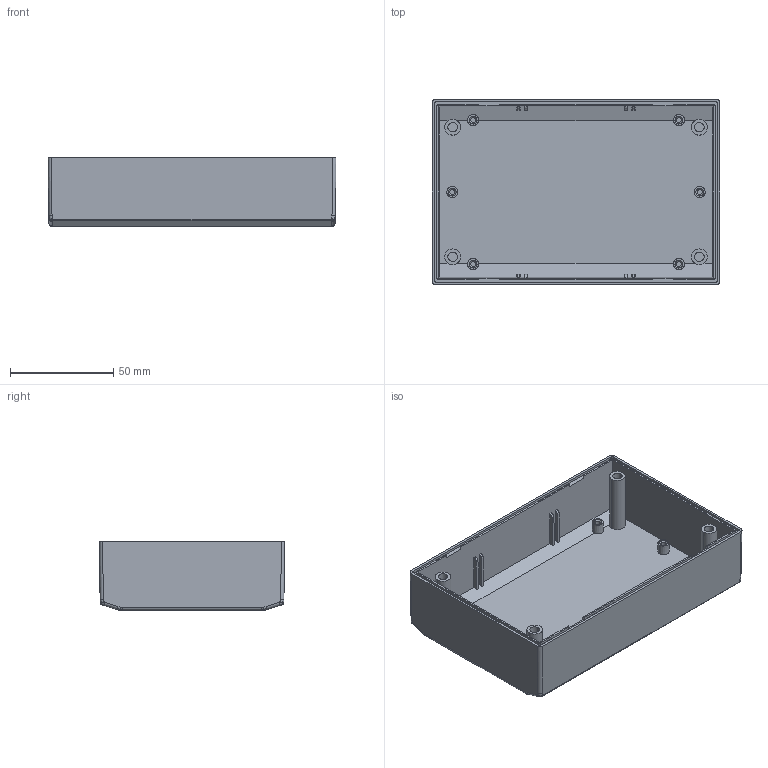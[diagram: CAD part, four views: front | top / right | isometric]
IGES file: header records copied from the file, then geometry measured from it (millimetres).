
Global section: file name: No Iges File Name specified; native system: Autodesk Inventor 2011; preprocessor: AutoDesk Inventor Iges Exporter R2011; author: tcook; date: 20101029.094041; units: inch
Bounding box: 139.7 x 89.92 x 33.4 mm (x, y, z)
Volume: 83242.9 mm3; surface area: 58277 mm2
Topology: 1 solids, 1 shells, 230 faces, 598 edges, 384 vertices
Faces by surface type: bspline 106, plane 66, cylinder 42, cone 12, revolution 4
